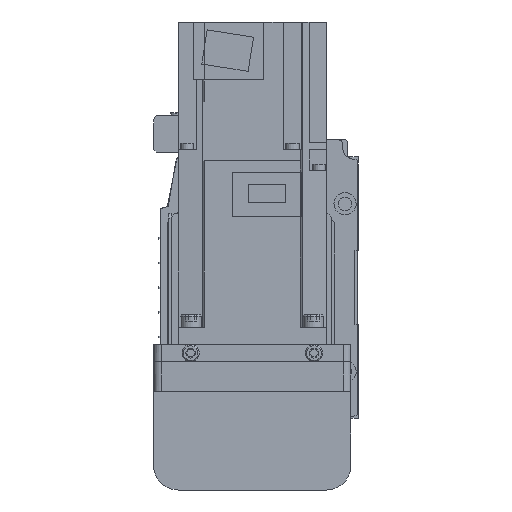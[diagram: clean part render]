
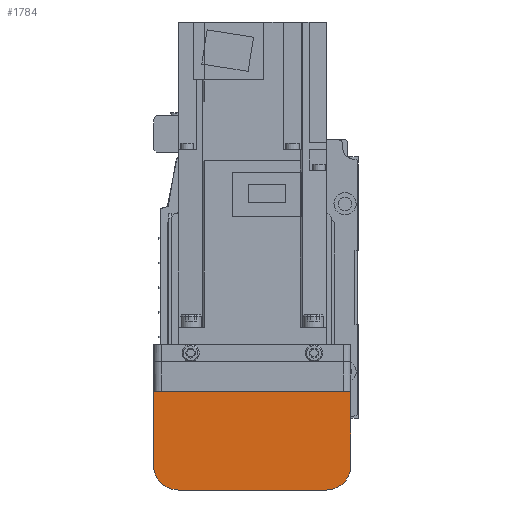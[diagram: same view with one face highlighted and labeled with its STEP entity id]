
A CAD part, left-side view. The second image highlights one B-rep face of the part: STEP entity #1784.
In plain terms, the highlighted planar face has unit normal (-1, 0, 0).
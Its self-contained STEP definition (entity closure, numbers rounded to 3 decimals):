
#1784 = ADVANCED_FACE( '', ( #3904 ), #3905, .F. );
#3904 = FACE_OUTER_BOUND( '', #6392, .T. );
#3905 = PLANE( '', #6393 );
#6392 = EDGE_LOOP( '', ( #11299, #11300, #11301, #11302, #11303, #11304 ) );
#6393 = AXIS2_PLACEMENT_3D( '', #11305, #11306, #11307 );
#11299 = ORIENTED_EDGE( '', *, *, #14037, .F. );
#11300 = ORIENTED_EDGE( '', *, *, #15022, .F. );
#11301 = ORIENTED_EDGE( '', *, *, #15613, .F. );
#11302 = ORIENTED_EDGE( '', *, *, #15630, .F. );
#11303 = ORIENTED_EDGE( '', *, *, #14347, .F. );
#11304 = ORIENTED_EDGE( '', *, *, #15754, .F. );
#11305 = CARTESIAN_POINT( '', ( -192., 37., 7. ) );
#11306 = DIRECTION( '', ( 1., 0., 0. ) );
#11307 = DIRECTION( '', ( 0., 0., -1. ) );
#14037 = EDGE_CURVE( '', #16610, #16612, #16613, .T. );
#14347 = EDGE_CURVE( '', #17163, #17165, #17166, .T. );
#15022 = EDGE_CURVE( '', #18275, #16610, #18277, .T. );
#15613 = EDGE_CURVE( '', #19137, #18275, #19139, .T. );
#15630 = EDGE_CURVE( '', #17165, #19137, #19160, .T. );
#15754 = EDGE_CURVE( '', #16612, #17163, #19336, .T. );
#16610 = VERTEX_POINT( '', #20377 );
#16612 = VERTEX_POINT( '', #20380 );
#16613 = LINE( '', #20381, #20382 );
#17163 = VERTEX_POINT( '', #21109 );
#17165 = VERTEX_POINT( '', #21112 );
#17166 = CIRCLE( '', #21113, 10. );
#18275 = VERTEX_POINT( '', #22587 );
#18277 = LINE( '', #22590, #22591 );
#19137 = VERTEX_POINT( '', #23743 );
#19139 = CIRCLE( '', #23746, 10. );
#19160 = LINE( '', #23774, #23775 );
#19336 = LINE( '', #24026, #24027 );
#20377 = CARTESIAN_POINT( '', ( -192., 40., -12.1 ) );
#20380 = CARTESIAN_POINT( '', ( -192., -40., -12.1 ) );
#20381 = CARTESIAN_POINT( '', ( -192., 50., -12.1 ) );
#20382 = VECTOR( '', #25300, 1000. );
#21109 = CARTESIAN_POINT( '', ( -192., -40., -42. ) );
#21112 = CARTESIAN_POINT( '', ( -192., -30., -52. ) );
#21113 = AXIS2_PLACEMENT_3D( '', #25719, #25720, #25721 );
#22587 = CARTESIAN_POINT( '', ( -192., 40., -42. ) );
#22590 = CARTESIAN_POINT( '', ( -192., 40., -42. ) );
#22591 = VECTOR( '', #26583, 1000. );
#23743 = CARTESIAN_POINT( '', ( -192., 30., -52. ) );
#23746 = AXIS2_PLACEMENT_3D( '', #27297, #27298, #27299 );
#23774 = CARTESIAN_POINT( '', ( -192., -30., -52. ) );
#23775 = VECTOR( '', #27316, 1000. );
#24026 = CARTESIAN_POINT( '', ( -192., -40., -12.1 ) );
#24027 = VECTOR( '', #27461, 1000. );
#25300 = DIRECTION( '', ( 0., -1., 0. ) );
#25719 = CARTESIAN_POINT( '', ( -192., -30., -42. ) );
#25720 = DIRECTION( '', ( 1., 0., 0. ) );
#25721 = DIRECTION( '', ( 0., 0., -1. ) );
#26583 = DIRECTION( '', ( 0., 0., 1. ) );
#27297 = CARTESIAN_POINT( '', ( -192., 30., -42. ) );
#27298 = DIRECTION( '', ( 1., 0., 0. ) );
#27299 = DIRECTION( '', ( 0., 0., -1. ) );
#27316 = DIRECTION( '', ( 0., 1., 0. ) );
#27461 = DIRECTION( '', ( 0., 0., -1. ) );
